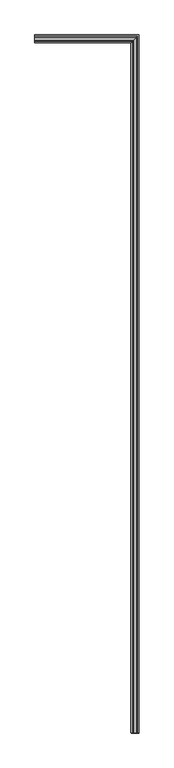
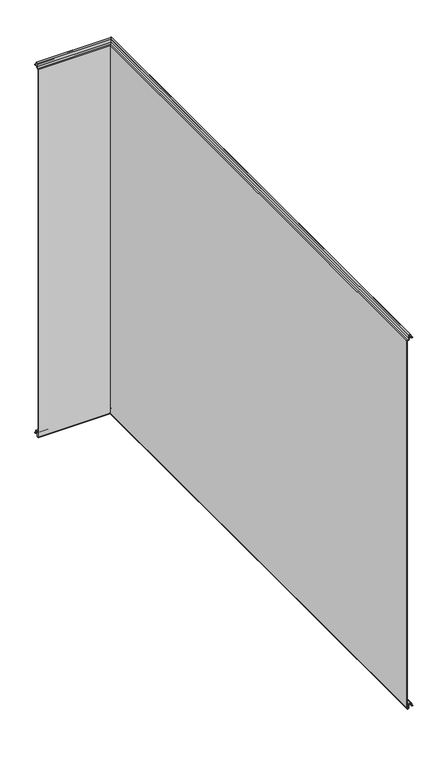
"""IFC4 building model written with IfcOpenShell, lengths in millimetres: plate geometry, Угловой модуль Fronttop : Угловой модуль Fronttop 150/1000."""

from ifc_helpers import new_model, si_unit, frame, origin, place, context, project, spatial, polyline, circle_curve, ellipse_curve, source, transform, mapped, element, save
from ifc_brep_helpers import plane_surface, cylinder_surface, revolved_surface, advanced_brep


def plate_ab96fd29(model_context):
    return source(origin(), model_context, "Body", "AdvancedBrep", [
        advanced_brep(
        [(-159.5, 13.0, 1001.0), (-159.5, 15.0, 1001.0), (-159.5, 15.0, 1000.0), (-159.5, 13.0, 1000.0), (-159.5, 9.0, 1004.0), (-159.5, 9.0, 1008.0), (-159.5, 6.0, 1008.0), (-159.5, 6.0, 999.5), (-159.5, 2.1134897, 996.0214069), (-159.5, 1.0, 995.0), (-159.5, 1.0, -0.5), (-159.5, 3.0, -0.5), (-159.5, 3.0, 8.0), (-159.5, 12.0, 8.0), (-159.5, 12.0, 4.0), (-159.5, 13.0, 3.0), (-159.5, 15.0, 3.0), (-159.5, 15.0, 2.0), (-159.5, 13.0, 2.0), (-159.5, 11.0, 4.0), (-159.5, 11.0, 8.0), (-159.5, 4.0, 8.0), (-159.5, 4.0, -0.5), (-159.5, 0.0, -0.5), (-159.5, 0.0, 995.0), (-159.5, 2.220863, 996.9877675), (-159.5, 5.0, 999.5), (-159.5, 5.0, 1008.0), (-159.5, 10.0, 1008.0), (-159.5, 10.0, 1004.0), (38.0, 13.0, 1001.0), (38.0, -1319.5, 1001.0), (40.0, -1319.5, 1001.0), (40.0, 15.0, 1001.0), (40.0, 15.0, 1000.0), (40.0, -1319.5, 1000.0), (38.0, -1319.5, 1000.0), (38.0, 13.0, 1000.0), (34.0, 9.0, 1004.0), (34.0, 9.0, 1008.0), (31.0, 6.0, 1008.0), (31.0, 6.0, 999.5), (27.1134897, 2.1134897, 996.0214069), (26.0, 1.0, 995.0), (26.0, 1.0, -0.5), (28.0, 3.0, -0.5), (28.0, 3.0, 8.0), (37.0, 12.0, 8.0), (37.0, 12.0, 4.0), (38.0, 13.0, 3.0), (38.0, -1319.5, 3.0), (40.0, -1319.5, 3.0), (40.0, 15.0, 3.0), (40.0, 15.0, 2.0), (40.0, -1319.5, 2.0), (38.0, -1319.5, 2.0), (38.0, 13.0, 2.0), (36.0, 11.0, 4.0), (36.0, 11.0, 8.0), (29.0, 4.0, 8.0), (29.0, 4.0, -0.5), (25.0, 0.0, -0.5), (25.0, 0.0, 995.0), (27.220863, 2.220863, 996.9877675), (30.0, 5.0, 999.5), (30.0, 5.0, 1008.0), (35.0, 10.0, 1008.0), (35.0, 10.0, 1004.0), (35.0, -1319.5, 1004.0), (35.0, -1319.5, 1008.0), (30.0, -1319.5, 1008.0), (30.0, -1319.5, 999.5), (27.2239212, -1319.5, 997.0152907), (25.0, -1319.5, 995.0), (25.0, -1319.5, -0.5), (29.0, -1319.5, -0.5), (29.0, -1319.5, 8.0), (36.0, -1319.5, 8.0), (36.0, -1319.5, 4.0), (37.0, -1319.5, 4.0), (37.0, -1319.5, 8.0), (28.0, -1319.5, 8.0), (28.0, -1319.5, -0.5), (26.0, -1319.5, -0.5), (26.0, -1319.5, 995.0), (27.1104315, -1319.5, 995.9938837), (31.0, -1319.5, 999.5), (31.0, -1319.5, 1008.0), (34.0, -1319.5, 1008.0), (34.0, -1319.5, 1004.0)],
        [
            (0, 1),
            (1, 2),
            (2, 3),
            (3, 4, circle_curve(frame((-159.5, 13.0, 1004.0), z_axis=(-1.0, 0.0, 0.0), x_axis=(0.0, -1.0, 0.0)), 4.0)),
            (4, 5),
            (5, 6, circle_curve(frame((-159.5, 7.5, 1008.0), z_axis=(1.0, 0.0, 0.0), x_axis=(0.0, -1.0, 0.0)), 1.5)),
            (6, 7),
            (7, 8, circle_curve(frame((-159.5, 2.5, 999.5), z_axis=(-1.0, 0.0, 0.0), x_axis=(0.0, -1.0, 0.0)), 3.5)),
            (8, 9, circle_curve(frame((-159.5, 2.0, 995.0), z_axis=(1.0, 0.0, 0.0), x_axis=(0.0, -1.0, 0.0)), 1.0)),
            (9, 10),
            (10, 11, circle_curve(frame((-159.5, 2.0, -0.5), z_axis=(1.0, 0.0, 0.0), x_axis=(0.0, -1.0, 0.0)), 1.0)),
            (11, 12),
            (12, 13, circle_curve(frame((-159.5, 7.5, 8.0), z_axis=(-1.0, 0.0, 0.0), x_axis=(0.0, -1.0, 0.0)), 4.5)),
            (13, 14),
            (14, 15, circle_curve(frame((-159.5, 13.0, 4.0), z_axis=(1.0, 0.0, 0.0), x_axis=(0.0, -1.0, 0.0)), 1.0)),
            (15, 16),
            (16, 17),
            (17, 18),
            (18, 19, circle_curve(frame((-159.5, 13.0, 4.0), z_axis=(-1.0, 0.0, 0.0), x_axis=(0.0, -1.0, 0.0)), 2.0)),
            (19, 20),
            (20, 21, circle_curve(frame((-159.5, 7.5, 8.0), z_axis=(1.0, 0.0, 0.0), x_axis=(0.0, -1.0, 0.0)), 3.5)),
            (21, 22),
            (22, 23, circle_curve(frame((-159.5, 2.0, -0.5), z_axis=(-1.0, 0.0, 0.0), x_axis=(0.0, -1.0, 0.0)), 2.0)),
            (23, 24),
            (24, 25, circle_curve(frame((-159.5, 2.0, 995.0), z_axis=(-1.0, 0.0, 0.0), x_axis=(0.0, -1.0, 0.0)), 2.0)),
            (25, 26, circle_curve(frame((-159.5, 2.5, 999.5), z_axis=(1.0, 0.0, 0.0), x_axis=(0.0, -1.0, 0.0)), 2.5)),
            (26, 27),
            (27, 28, circle_curve(frame((-159.5, 7.5, 1008.0), z_axis=(-1.0, 0.0, 0.0), x_axis=(0.0, -1.0, 0.0)), 2.5)),
            (28, 29),
            (29, 0, circle_curve(frame((-159.5, 13.0, 1004.0), z_axis=(1.0, 0.0, 0.0), x_axis=(0.0, -1.0, 0.0)), 3.0)),
            (0, 30),
            (30, 31),
            (31, 32),
            (32, 33),
            (33, 1),
            (33, 34),
            (34, 2),
            (34, 35),
            (35, 36),
            (36, 37),
            (37, 3),
            (37, 38, ellipse_curve(frame((38.0, 13.0, 1004.0), z_axis=(-0.7071067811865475, 0.7071067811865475, 0.0), x_axis=(-0.7071067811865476, -0.7071067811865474, 0.0)), 5.6568542, 4.0)),
            (38, 4),
            (38, 39),
            (39, 5),
            (39, 40, ellipse_curve(frame((32.5, 7.5, 1008.0), z_axis=(0.7071067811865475, -0.7071067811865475, 0.0), x_axis=(0.7071067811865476, 0.7071067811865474, 0.0)), 2.1213204, 1.5)),
            (40, 6),
            (40, 41),
            (41, 7),
            (41, 42, ellipse_curve(frame((27.5, 2.5, 999.5), z_axis=(-0.7071067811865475, 0.7071067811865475, 0.0), x_axis=(-0.7071067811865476, -0.7071067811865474, 0.0)), 4.9497475, 3.5)),
            (42, 8),
            (42, 43, ellipse_curve(frame((27.0, 2.0, 995.0), z_axis=(0.7071067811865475, -0.7071067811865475, 0.0), x_axis=(0.7071067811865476, 0.7071067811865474, 0.0)), 1.4142136, 1.0)),
            (43, 9),
            (43, 44),
            (44, 10),
            (44, 45, ellipse_curve(frame((27.0, 2.0, -0.5), z_axis=(0.7071067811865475, -0.7071067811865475, 0.0), x_axis=(0.7071067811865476, 0.7071067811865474, 0.0)), 1.4142136, 1.0)),
            (45, 11),
            (45, 46),
            (46, 12),
            (46, 47, ellipse_curve(frame((32.5, 7.5, 8.0), z_axis=(-0.7071067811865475, 0.7071067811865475, 0.0), x_axis=(-0.7071067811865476, -0.7071067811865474, 0.0)), 6.363961, 4.5)),
            (47, 13),
            (47, 48),
            (48, 14),
            (48, 49, ellipse_curve(frame((38.0, 13.0, 4.0), z_axis=(0.7071067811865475, -0.7071067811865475, 0.0), x_axis=(0.7071067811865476, 0.7071067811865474, 0.0)), 1.4142136, 1.0)),
            (49, 15),
            (49, 50),
            (50, 51),
            (51, 52),
            (52, 16),
            (52, 53),
            (53, 17),
            (53, 54),
            (54, 55),
            (55, 56),
            (56, 18),
            (56, 57, ellipse_curve(frame((38.0, 13.0, 4.0), z_axis=(-0.7071067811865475, 0.7071067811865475, 0.0), x_axis=(-0.7071067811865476, -0.7071067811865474, 0.0)), 2.8284271, 2.0)),
            (57, 19),
            (57, 58),
            (58, 20),
            (58, 59, ellipse_curve(frame((32.5, 7.5, 8.0), z_axis=(0.7071067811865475, -0.7071067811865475, 0.0), x_axis=(0.7071067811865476, 0.7071067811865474, 0.0)), 4.9497475, 3.5)),
            (59, 21),
            (59, 60),
            (60, 22),
            (60, 61, ellipse_curve(frame((27.0, 2.0, -0.5), z_axis=(-0.7071067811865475, 0.7071067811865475, 0.0), x_axis=(-0.7071067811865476, -0.7071067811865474, 0.0)), 2.8284271, 2.0)),
            (61, 23),
            (61, 62),
            (62, 24),
            (62, 63, ellipse_curve(frame((27.0, 2.0, 995.0), z_axis=(-0.7071067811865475, 0.7071067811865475, 0.0), x_axis=(-0.7071067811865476, -0.7071067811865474, 0.0)), 2.8284271, 2.0)),
            (63, 25),
            (63, 64, ellipse_curve(frame((27.5, 2.5, 999.5), z_axis=(0.7071067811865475, -0.7071067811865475, 0.0), x_axis=(0.7071067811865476, 0.7071067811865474, 0.0)), 3.5355339, 2.5)),
            (64, 26),
            (64, 65),
            (65, 27),
            (65, 66, ellipse_curve(frame((32.5, 7.5, 1008.0), z_axis=(-0.7071067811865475, 0.7071067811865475, 0.0), x_axis=(-0.7071067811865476, -0.7071067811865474, 0.0)), 3.5355339, 2.5)),
            (66, 28),
            (66, 67),
            (67, 29),
            (67, 30, ellipse_curve(frame((38.0, 13.0, 1004.0), z_axis=(0.7071067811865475, -0.7071067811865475, 0.0), x_axis=(0.7071067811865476, 0.7071067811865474, 0.0)), 4.2426407, 3.0)),
            (31, 68, circle_curve(frame((38.0, -1319.5, 1004.0), z_axis=(0.0, 1.0, 0.0), x_axis=(-1.0, 0.0, 0.0)), 3.0)),
            (68, 69),
            (69, 70, circle_curve(frame((32.5, -1319.5, 1008.0), z_axis=(0.0, -1.0, 0.0), x_axis=(-1.0, 0.0, 0.0)), 2.5)),
            (70, 71),
            (71, 72, circle_curve(frame((27.5, -1319.5, 999.5), z_axis=(0.0, 1.0, 0.0), x_axis=(-1.0, 0.0, 0.0)), 2.5)),
            (72, 73, circle_curve(frame((27.0, -1319.5, 995.0), z_axis=(0.0, -1.0, 0.0), x_axis=(-1.0, 0.0, 0.0)), 2.0)),
            (73, 74),
            (74, 75, circle_curve(frame((27.0, -1319.5, -0.5), z_axis=(0.0, -1.0, 0.0), x_axis=(-1.0, 0.0, 0.0)), 2.0)),
            (75, 76),
            (76, 77, circle_curve(frame((32.5, -1319.5, 8.0), z_axis=(0.0, 1.0, 0.0), x_axis=(-1.0, 0.0, 0.0)), 3.5)),
            (77, 78),
            (78, 55, circle_curve(frame((38.0, -1319.5, 4.0), z_axis=(0.0, -1.0, 0.0), x_axis=(-1.0, 0.0, 0.0)), 2.0)),
            (54, 51),
            (50, 79, circle_curve(frame((38.0, -1319.5, 4.0), z_axis=(0.0, 1.0, 0.0), x_axis=(-1.0, 0.0, 0.0)), 1.0)),
            (79, 80),
            (80, 81, circle_curve(frame((32.5, -1319.5, 8.0), z_axis=(0.0, -1.0, 0.0), x_axis=(-1.0, 0.0, 0.0)), 4.5)),
            (81, 82),
            (82, 83, circle_curve(frame((27.0, -1319.5, -0.5), z_axis=(0.0, 1.0, 0.0), x_axis=(-1.0, 0.0, 0.0)), 1.0)),
            (83, 84),
            (84, 85, circle_curve(frame((27.0, -1319.5, 995.0), z_axis=(0.0, 1.0, 0.0), x_axis=(-1.0, 0.0, 0.0)), 1.0)),
            (85, 86, circle_curve(frame((27.5, -1319.5, 999.5), z_axis=(0.0, -1.0, 0.0), x_axis=(-1.0, 0.0, 0.0)), 3.5)),
            (86, 87),
            (87, 88, circle_curve(frame((32.5, -1319.5, 1008.0), z_axis=(0.0, 1.0, 0.0), x_axis=(-1.0, 0.0, 0.0)), 1.5)),
            (88, 89),
            (89, 36, circle_curve(frame((38.0, -1319.5, 1004.0), z_axis=(0.0, -1.0, 0.0), x_axis=(-1.0, 0.0, 0.0)), 4.0)),
            (35, 32),
            (89, 38),
            (88, 39),
            (87, 40),
            (86, 41),
            (85, 42),
            (84, 43),
            (83, 44),
            (82, 45),
            (81, 46),
            (80, 47),
            (79, 48),
            (78, 57),
            (77, 58),
            (76, 59),
            (75, 60),
            (74, 61),
            (73, 62),
            (72, 63),
            (71, 64),
            (70, 65),
            (69, 66),
            (68, 67),
        ],
        [
            plane_surface(frame((-159.5, 0.0, 0.0), z_axis=(-1.0, 0.0, 0.0), x_axis=(0.0, 0.0, 1.0))),
            plane_surface(frame((-159.5, 13.0, 1001.0), z_axis=(0.0, 0.0, 1.0), x_axis=(1.0, 0.0, 0.0))),
            plane_surface(frame((-159.5, 15.0, 1001.0), z_axis=(0.0, 1.0, 0.0), x_axis=(1.0, 0.0, 0.0))),
            plane_surface(frame((-159.5, 15.0, 1000.0), z_axis=(0.0, 0.0, -1.0), x_axis=(1.0, 0.0, 0.0))),
            cylinder_surface(frame((-159.5, 13.0, 1004.0), z_axis=(-1.0, 0.0, 0.0), x_axis=(0.0, -1.0, 0.0)), 4.0),
            plane_surface(frame((-159.5, 9.0, 1004.0), z_axis=(0.0, -1.0, 0.0), x_axis=(1.0, 0.0, 0.0))),
            revolved_surface(polyline([(34.00000003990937, 6.0, 1008.0), (-159.5, 6.0, 1008.0)]), (-159.5, 7.5, 1008.0), (1.0, 0.0, 0.0)),
            plane_surface(frame((-159.5, 6.0, 1008.0), z_axis=(0.0, 1.0, 0.0), x_axis=(1.0, 0.0, 0.0))),
            cylinder_surface(frame((-159.5, 2.5, 999.5), z_axis=(-1.0, 0.0, 0.0), x_axis=(0.0, -1.0, 0.0)), 3.5),
            revolved_surface(polyline([(28.000000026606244, 1.0, 995.0), (-159.5, 1.0, 995.0)]), (-159.5, 2.0, 995.0), (1.0, 0.0, 0.0)),
            plane_surface(frame((-159.5, 1.0, 995.0), z_axis=(0.0, 1.0, 0.0), x_axis=(1.0, 0.0, 0.0))),
            revolved_surface(polyline([(28.000000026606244, 1.0, -0.5), (-159.5, 1.0, -0.5)]), (-159.5, 2.0, -0.5), (1.0, 0.0, 0.0)),
            plane_surface(frame((-159.5, 3.0, -0.5), z_axis=(0.0, -1.0, 0.0), x_axis=(1.0, 0.0, 0.0))),
            cylinder_surface(frame((-159.5, 7.5, 8.0), z_axis=(-1.0, 0.0, 0.0), x_axis=(0.0, -1.0, 0.0)), 4.5),
            plane_surface(frame((-159.5, 12.0, 8.0), z_axis=(0.0, 1.0, 0.0), x_axis=(1.0, 0.0, 0.0))),
            revolved_surface(polyline([(39.000000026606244, 12.0, 4.0), (-159.5, 12.0, 4.0)]), (-159.5, 13.0, 4.0), (1.0, 0.0, 0.0)),
            plane_surface(frame((-159.5, 13.0, 3.0), z_axis=(0.0, 0.0, 1.0), x_axis=(1.0, 0.0, 0.0))),
            plane_surface(frame((-159.5, 15.0, 3.0), z_axis=(0.0, 1.0, 0.0), x_axis=(1.0, 0.0, 0.0))),
            plane_surface(frame((-159.5, 15.0, 2.0), z_axis=(0.0, 0.0, -1.0), x_axis=(1.0, 0.0, 0.0))),
            cylinder_surface(frame((-159.5, 13.0, 4.0), z_axis=(-1.0, 0.0, 0.0), x_axis=(0.0, -1.0, 0.0)), 2.0),
            plane_surface(frame((-159.5, 11.0, 4.0), z_axis=(0.0, -1.0, 0.0), x_axis=(1.0, 0.0, 0.0))),
            revolved_surface(polyline([(36.00000002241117, 4.0, 8.0), (-159.5, 4.0, 8.0)]), (-159.5, 7.5, 8.0), (1.0, 0.0, 0.0)),
            plane_surface(frame((-159.5, 4.0, 8.0), z_axis=(0.0, 1.0, 0.0), x_axis=(1.0, 0.0, 0.0))),
            cylinder_surface(frame((-159.5, 2.0, -0.5), z_axis=(-1.0, 0.0, 0.0), x_axis=(0.0, -1.0, 0.0)), 2.0),
            plane_surface(frame((-159.5, 0.0, -0.5), z_axis=(0.0, -1.0, 0.0), x_axis=(1.0, 0.0, 0.0))),
            cylinder_surface(frame((-159.5, 2.0, 995.0), z_axis=(-1.0, 0.0, 0.0), x_axis=(0.0, -1.0, 0.0)), 2.0),
            revolved_surface(polyline([(30.0, 0.0, 999.5), (-159.5, 0.0, 999.5)]), (-159.5, 2.5, 999.5), (1.0, 0.0, 0.0)),
            plane_surface(frame((-159.5, 5.0, 999.5), z_axis=(0.0, -1.0, 0.0), x_axis=(1.0, 0.0, 0.0))),
            cylinder_surface(frame((-159.5, 7.5, 1008.0), z_axis=(-1.0, 0.0, 0.0), x_axis=(0.0, -1.0, 0.0)), 2.5),
            plane_surface(frame((-159.5, 10.0, 1008.0), z_axis=(0.0, 1.0, 0.0), x_axis=(1.0, 0.0, 0.0))),
            revolved_surface(polyline([(41.00000000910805, 10.0, 1004.0), (-159.5, 10.0, 1004.0)]), (-159.5, 13.0, 1004.0), (1.0, 0.0, 0.0)),
            plane_surface(frame((25.0, -1319.5, 0.0), z_axis=(0.0, -1.0, 0.0), x_axis=(0.0, 0.0, 1.0))),
            plane_surface(frame((40.0, 15.0, 1001.0), z_axis=(1.0, 0.0, 0.0), x_axis=(0.0, -1.0, 0.0))),
            cylinder_surface(frame((38.0, 0.0, 1004.0), z_axis=(0.0, 1.0, 0.0), x_axis=(-1.0, 0.0, 0.0)), 4.0),
            plane_surface(frame((34.0, 9.0, 1004.0), z_axis=(-1.0, 0.0, 0.0), x_axis=(0.0, -1.0, 0.0))),
            revolved_surface(polyline([(31.0, -1319.5, 1008.0), (31.0, 9.00000003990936, 1008.0)]), (32.5, 0.0, 1008.0), (0.0, -1.0, 0.0)),
            plane_surface(frame((31.0, 6.0, 1008.0), z_axis=(1.0, 0.0, 0.0), x_axis=(0.0, -1.0, 0.0))),
            cylinder_surface(frame((27.5, 0.0, 999.5), z_axis=(0.0, 1.0, 0.0), x_axis=(-1.0, 0.0, 0.0)), 3.5),
            revolved_surface(polyline([(26.0, -1319.5, 995.0), (26.0, 3.0000000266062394, 995.0)]), (27.0, 0.0, 995.0), (0.0, -1.0, 0.0)),
            plane_surface(frame((26.0, 1.0, 995.0), z_axis=(1.0, 0.0, 0.0), x_axis=(0.0, -1.0, 0.0))),
            revolved_surface(polyline([(26.0, -1319.5, -0.5), (26.0, 3.0000000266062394, -0.5)]), (27.0, 0.0, -0.5), (0.0, -1.0, 0.0)),
            plane_surface(frame((28.0, 3.0, -0.5), z_axis=(-1.0, 0.0, 0.0), x_axis=(0.0, -1.0, 0.0))),
            cylinder_surface(frame((32.5, 0.0, 8.0), z_axis=(0.0, 1.0, 0.0), x_axis=(-1.0, 0.0, 0.0)), 4.5),
            plane_surface(frame((37.0, 12.0, 8.0), z_axis=(1.0, 0.0, 0.0), x_axis=(0.0, -1.0, 0.0))),
            revolved_surface(polyline([(37.0, -1319.5, 4.0), (37.0, 14.000000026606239, 4.0)]), (38.0, 0.0, 4.0), (0.0, -1.0, 0.0)),
            plane_surface(frame((40.0, 15.0, 3.0), z_axis=(1.0, 0.0, 0.0), x_axis=(0.0, -1.0, 0.0))),
            cylinder_surface(frame((38.0, 0.0, 4.0), z_axis=(0.0, 1.0, 0.0), x_axis=(-1.0, 0.0, 0.0)), 2.0),
            plane_surface(frame((36.0, 11.0, 4.0), z_axis=(-1.0, 0.0, 0.0), x_axis=(0.0, -1.0, 0.0))),
            revolved_surface(polyline([(29.0, -1319.5, 8.0), (29.0, 11.00000002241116, 8.0)]), (32.5, 0.0, 8.0), (0.0, -1.0, 0.0)),
            plane_surface(frame((29.0, 4.0, 8.0), z_axis=(1.0, 0.0, 0.0), x_axis=(0.0, -1.0, 0.0))),
            cylinder_surface(frame((27.0, 0.0, -0.5), z_axis=(0.0, 1.0, 0.0), x_axis=(-1.0, 0.0, 0.0)), 2.0),
            plane_surface(frame((25.0, 0.0, -0.5), z_axis=(-1.0, 0.0, 0.0), x_axis=(0.0, -1.0, 0.0))),
            cylinder_surface(frame((27.0, 0.0, 995.0), z_axis=(0.0, 1.0, 0.0), x_axis=(-1.0, 0.0, 0.0)), 2.0),
            revolved_surface(polyline([(25.0, -1319.5, 999.5), (25.0, 5.0, 999.5)]), (27.5, 0.0, 999.5), (0.0, -1.0, 0.0)),
            plane_surface(frame((30.0, 5.0, 999.5), z_axis=(-1.0, 0.0, 0.0), x_axis=(0.0, -1.0, 0.0))),
            cylinder_surface(frame((32.5, 0.0, 1008.0), z_axis=(0.0, 1.0, 0.0), x_axis=(-1.0, 0.0, 0.0)), 2.5),
            plane_surface(frame((35.0, 10.0, 1008.0), z_axis=(1.0, 0.0, 0.0), x_axis=(0.0, -1.0, 0.0))),
            revolved_surface(polyline([(35.0, -1319.5, 1004.0), (35.0, 16.00000000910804, 1004.0)]), (38.0, 0.0, 1004.0), (0.0, -1.0, 0.0)),
        ],
        [
            (0, [[1, 2, 3, 4, 5, 6, 7, 8, 9, 10, 11, 12, 13, 14, 15, 16, 17, 18, 19, 20, 21, 22, 23, 24, 25, 26, 27, 28, 29, 30]]),
            (1, [[-1, 31, 32, 33, 34, 35]]),
            (2, [[-2, -35, 36, 37]]),
            (3, [[-3, -37, 38, 39, 40, 41]]),
            (4, [[-4, -41, 42, 43]]),
            (5, [[-5, -43, 44, 45]]),
            (6, [[-6, -45, 46, 47]]),
            (7, [[-7, -47, 48, 49]]),
            (8, [[-8, -49, 50, 51]]),
            (9, [[-9, -51, 52, 53]]),
            (10, [[-10, -53, 54, 55]]),
            (11, [[-11, -55, 56, 57]]),
            (12, [[-12, -57, 58, 59]]),
            (13, [[-13, -59, 60, 61]]),
            (14, [[-14, -61, 62, 63]]),
            (15, [[-15, -63, 64, 65]]),
            (16, [[-16, -65, 66, 67, 68, 69]]),
            (17, [[-17, -69, 70, 71]]),
            (18, [[-18, -71, 72, 73, 74, 75]]),
            (19, [[-19, -75, 76, 77]]),
            (20, [[-20, -77, 78, 79]]),
            (21, [[-21, -79, 80, 81]]),
            (22, [[-22, -81, 82, 83]]),
            (23, [[-23, -83, 84, 85]]),
            (24, [[-24, -85, 86, 87]]),
            (25, [[-25, -87, 88, 89]]),
            (26, [[-26, -89, 90, 91]]),
            (27, [[-27, -91, 92, 93]]),
            (28, [[-28, -93, 94, 95]]),
            (29, [[-29, -95, 96, 97]]),
            (30, [[-30, -97, 98, -31]]),
            (31, [[99, 100, 101, 102, 103, 104, 105, 106, 107, 108, 109, 110, -73, 111, -67, 112, 113, 114, 115, 116, 117, 118, 119, 120, 121, 122, 123, -39, 124, -33]]),
            (32, [[-36, -34, -124, -38]]),
            (33, [[-42, -40, -123, 125]]),
            (34, [[-44, -125, -122, 126]]),
            (35, [[-46, -126, -121, 127]]),
            (36, [[-48, -127, -120, 128]]),
            (37, [[-50, -128, -119, 129]]),
            (38, [[-52, -129, -118, 130]]),
            (39, [[-54, -130, -117, 131]]),
            (40, [[-56, -131, -116, 132]]),
            (41, [[-58, -132, -115, 133]]),
            (42, [[-60, -133, -114, 134]]),
            (43, [[-62, -134, -113, 135]]),
            (44, [[-64, -135, -112, -66]]),
            (45, [[-70, -68, -111, -72]]),
            (46, [[-76, -74, -110, 136]]),
            (47, [[-78, -136, -109, 137]]),
            (48, [[-80, -137, -108, 138]]),
            (49, [[-82, -138, -107, 139]]),
            (50, [[-84, -139, -106, 140]]),
            (51, [[-86, -140, -105, 141]]),
            (52, [[-88, -141, -104, 142]]),
            (53, [[-90, -142, -103, 143]]),
            (54, [[-92, -143, -102, 144]]),
            (55, [[-94, -144, -101, 145]]),
            (56, [[-96, -145, -100, 146]]),
            (57, [[-98, -146, -99, -32]]),
        ],
    ),
    ])


if __name__ == "__main__":
    model = new_model("IFC4")
    model_context = context("Model", 3, world=origin())
    ifc_project = project(units=[si_unit("LENGTHUNIT", "METRE", prefix="MILLI")], contexts=[model_context])
    site = spatial("IfcSite", under=ifc_project)
    building = spatial("IfcBuilding", under=site)
    placement = place(None, origin())
    plate_shape = plate_ab96fd29(model_context)
    element("IfcPlate", 1, ObjectType="Угловой модуль Fronttop : Угловой модуль Fronttop 150/1000", at=placement, inside=building, context=model_context, shape_type="MappedRepresentation", body=[
        mapped(plate_shape, transform((0.0, 0.0, 0.0), x_axis=(1.0, 0.0, 0.0), y_axis=(0.0, 1.0, 0.0), z_axis=(0.0, 0.0, 1.0))),
    ])
    save(model, "model.ifc")
